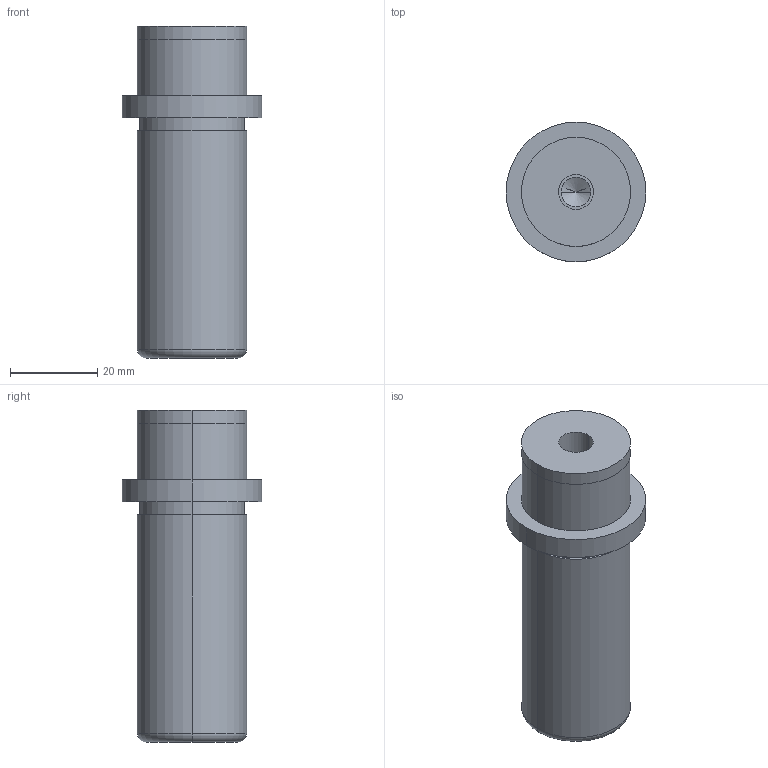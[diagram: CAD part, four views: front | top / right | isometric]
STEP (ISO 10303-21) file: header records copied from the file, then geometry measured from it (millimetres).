
FILE_DESCRIPTION(/* description */ (''),/* implementation_level */ '2;1');
FILE_NAME(/* name */ '3d_sgpw25-60_05255_r00.stp',/* time_stamp */ '2011-01-10T14:11:03+09:00',/* author */ ('MISUMI'),/* organization */ (''),/* preprocessor_version */ 'ST-DEVELOPER v11',/* originating_system */ 'UGS - NX 5.0',/* authorisation */ '');
FILE_SCHEMA (('CONFIG_CONTROL_DESIGN'));
Length unit declared in the file: millimetre
Products named in the file (1): 3d_sgpw25-60_05255_r00
Bounding box: 32 x 32 x 76 mm (x, y, z)
Volume: 36690.5 mm3; surface area: 8687.3 mm2
Topology: 1 solids, 1 shells, 31 faces, 64 edges, 38 vertices
Faces by surface type: cylinder 18, plane 7, cone 4, torus 2
Entity records: 890 total; most frequent: DIRECTION 162, CARTESIAN_POINT 130, ORIENTED_EDGE 120, AXIS2_PLACEMENT_3D 70, EDGE_CURVE 60, EDGE_LOOP 38, CIRCLE 38, VERTEX_POINT 38
